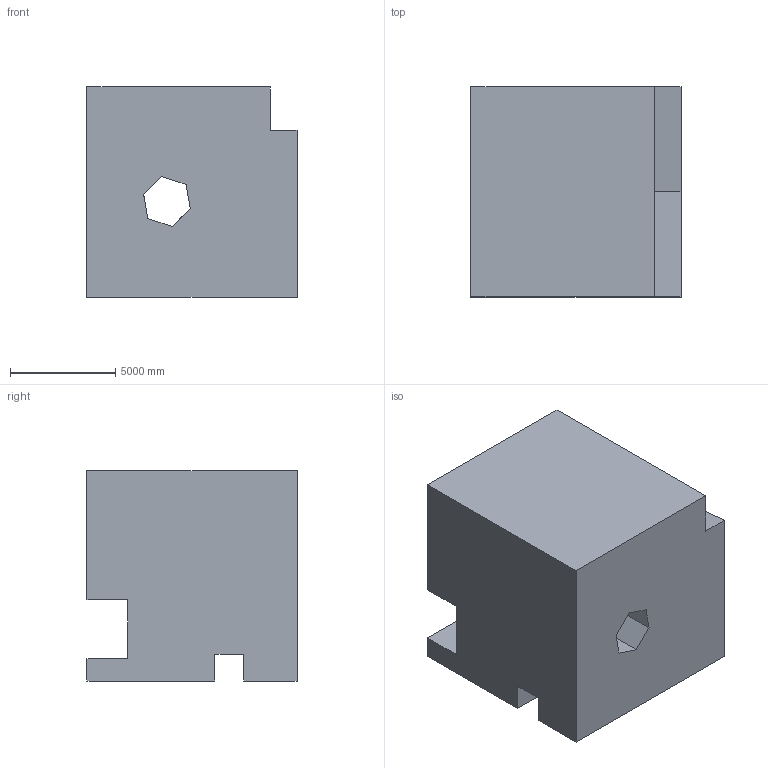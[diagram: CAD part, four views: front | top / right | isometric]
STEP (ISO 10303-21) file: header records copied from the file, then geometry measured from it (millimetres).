
FILE_DESCRIPTION (( 'STEP AP203' ), '1' );
FILE_NAME ('423.STEP', '2022-07-29T11:13:16', ( 'user' ), ( '' ), 'SwSTEP 2.0', 'SolidWorks 2021', '' );
FILE_SCHEMA (( 'CONFIG_CONTROL_DESIGN' ));
Length unit declared in the file: centimetre
Products named in the file (1): 423
Bounding box: 10000 x 10000 x 10000 mm (x, y, z)
Volume: 858113019490.5 mm3; surface area: 712611608.2 mm2
Topology: 1 solids, 1 shells, 29 faces, 81 edges, 54 vertices
Faces by surface type: plane 29
Entity records: 996 total; most frequent: CARTESIAN_POINT 165, ORIENTED_EDGE 162, DIRECTION 141, LINE 81, VECTOR 81, EDGE_CURVE 81, VERTEX_POINT 54, EDGE_LOOP 31
